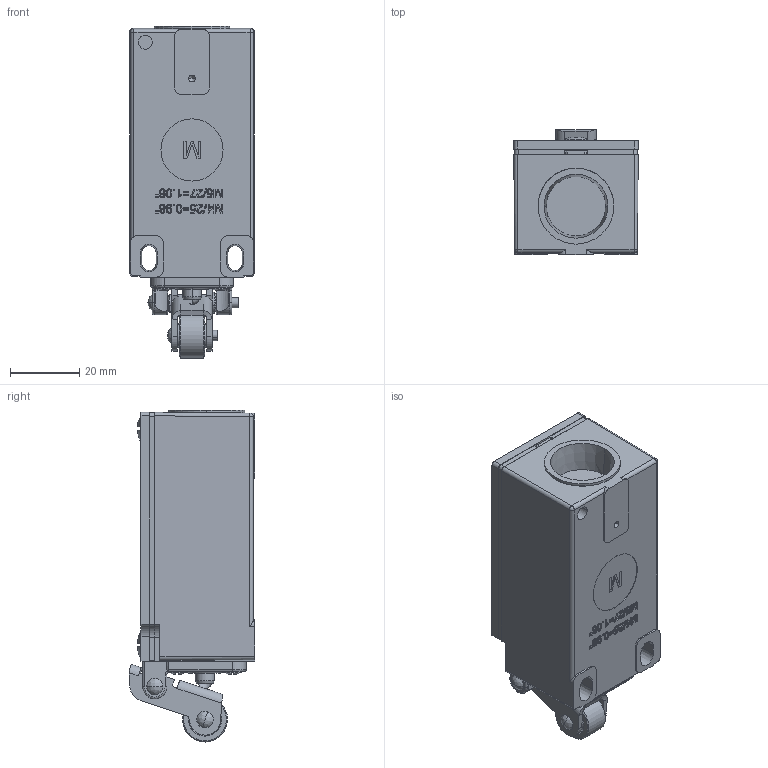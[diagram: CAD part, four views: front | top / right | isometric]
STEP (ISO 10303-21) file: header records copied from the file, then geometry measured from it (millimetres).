
FILE_DESCRIPTION((''),'2;1');
FILE_NAME('6021370629_SW0003','2025-02-19T07:02:48',('Hartwig.Bicknese'),(''),'CREO PARAMETRIC BY PTC INC, 2022124','CREO PARAMETRIC BY PTC INC, 2022124','');
FILE_SCHEMA(('AUTOMOTIVE_DESIGN { 1 0 10303 214 1 1 1 1 }'));
Length unit declared in the file: millimetre
Products named in the file (1): 6021370629_SW0003
Bounding box: 36 x 36.44 x 96.12 mm (x, y, z)
Volume: 83788 mm3; surface area: 18744.1 mm2
Topology: 3 solids, 3 shells, 1027 faces, 2581 edges, 1580 vertices
Faces by surface type: plane 539, extrusion 211, cylinder 140, cone 85, torus 26, sphere 16, bspline 10
Entity records: 49513 total; most frequent: CARTESIAN_POINT 9442, ORIENTED_EDGE 5082, DIRECTION 4322, PRESENTATION_STYLE_ASSIGNMENT 3782, STYLED_ITEM 2755, CURVE_STYLE 2752, EDGE_CURVE 2541, VECTOR 1780
